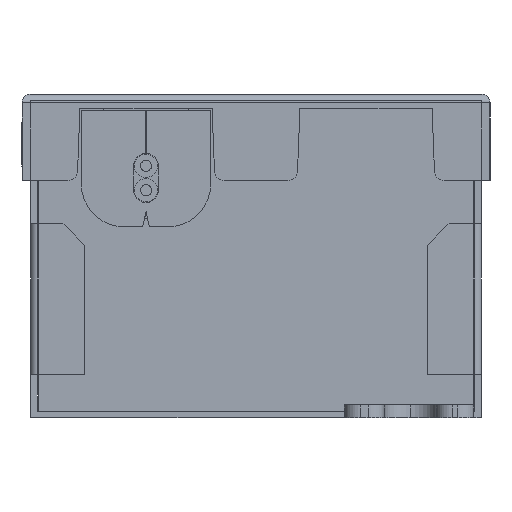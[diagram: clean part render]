
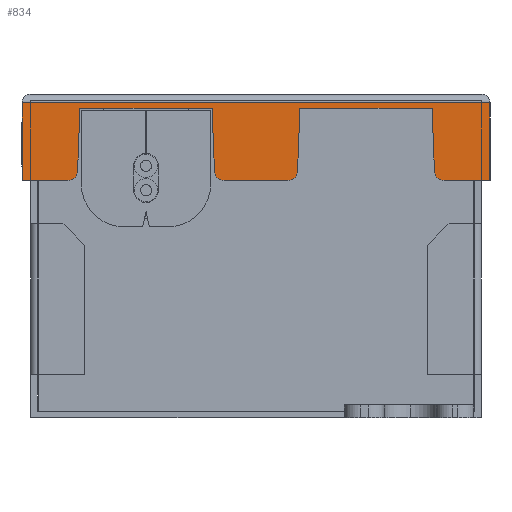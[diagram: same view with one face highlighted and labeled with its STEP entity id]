
A CAD part, left-side view. The second image highlights one B-rep face of the part: STEP entity #834.
In plain terms, the highlighted planar face has unit normal (-1, 0, 0).
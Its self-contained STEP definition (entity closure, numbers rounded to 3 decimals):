
#101 = CARTESIAN_POINT ( 'NONE',  ( -60., -0.7, 4.075 ) ) ;
#114 = CARTESIAN_POINT ( 'NONE',  ( -60., -7.4, -3.818 ) ) ;
#157 = EDGE_CURVE ( 'NONE', #3412, #4016, #7342, .T. ) ;
#196 = CIRCLE ( 'NONE', #2352, 0.9 ) ;
#300 = ORIENTED_EDGE ( 'NONE', *, *, #1863, .F. ) ;
#461 = VERTEX_POINT ( 'NONE', #9378 ) ;
#464 = CARTESIAN_POINT ( 'NONE',  ( -60., -6.535, -16.549 ) ) ;
#545 = VECTOR ( 'NONE', #1294, 1000. ) ;
#567 = ORIENTED_EDGE ( 'NONE', *, *, #8783, .T. ) ;
#635 = VECTOR ( 'NONE', #1257, 1000. ) ;
#834 = ADVANCED_FACE ( 'NONE', ( #3817 ), #3920, .F. ) ;
#877 = DIRECTION ( 'NONE',  ( 0., 0., 1. ) ) ;
#932 = VECTOR ( 'NONE', #6908, 1000. ) ;
#956 = DIRECTION ( 'NONE',  ( 1., 0., 0. ) ) ;
#1004 = VERTEX_POINT ( 'NONE', #3632 ) ;
#1125 = DIRECTION ( 'NONE',  ( 0., 0., -1. ) ) ;
#1166 = CARTESIAN_POINT ( 'NONE',  ( -60., -0.2, 21.7 ) ) ;
#1257 = DIRECTION ( 'NONE',  ( 0., 0., -1. ) ) ;
#1294 = DIRECTION ( 'NONE',  ( 0., -0.999, -0.038 ) ) ;
#1392 = ORIENTED_EDGE ( 'NONE', *, *, #5048, .F. ) ;
#1507 = CARTESIAN_POINT ( 'NONE',  ( -60., -6.535, 3.851 ) ) ;
#1512 = EDGE_CURVE ( 'NONE', #2907, #3495, #4361, .T. ) ;
#1603 = LINE ( 'NONE', #101, #3428 ) ;
#1765 = DIRECTION ( 'NONE',  ( -1., 0., 0. ) ) ;
#1774 = CARTESIAN_POINT ( 'NONE',  ( -60., 0.6, -21.7 ) ) ;
#1796 = DIRECTION ( 'NONE',  ( 0., 0., -1. ) ) ;
#1863 = EDGE_CURVE ( 'NONE', #7162, #7226, #8904, .T. ) ;
#2007 = VERTEX_POINT ( 'NONE', #5866 ) ;
#2078 = CARTESIAN_POINT ( 'NONE',  ( -60., -6.535, 16.549 ) ) ;
#2079 = ORIENTED_EDGE ( 'NONE', *, *, #1512, .T. ) ;
#2246 = EDGE_CURVE ( 'NONE', #3471, #1004, #3308, .T. ) ;
#2352 = AXIS2_PLACEMENT_3D ( 'NONE', #4796, #4430, #5200 ) ;
#2649 = VECTOR ( 'NONE', #8013, 1000. ) ;
#2791 = LINE ( 'NONE', #5430, #3254 ) ;
#2815 = ORIENTED_EDGE ( 'NONE', *, *, #5248, .T. ) ;
#2838 = CIRCLE ( 'NONE', #4275, 0.9 ) ;
#2895 = EDGE_CURVE ( 'NONE', #3471, #4016, #7746, .T. ) ;
#2907 = VERTEX_POINT ( 'NONE', #7684 ) ;
#2979 = DIRECTION ( 'NONE',  ( 0., 0., 1. ) ) ;
#3053 = VERTEX_POINT ( 'NONE', #7230 ) ;
#3055 = CARTESIAN_POINT ( 'NONE',  ( -60., -7.4, 21.7 ) ) ;
#3254 = VECTOR ( 'NONE', #9091, 1000. ) ;
#3258 = EDGE_CURVE ( 'NONE', #8758, #2007, #5020, .T. ) ;
#3267 = CARTESIAN_POINT ( 'NONE',  ( -60., 0.6, 21.7 ) ) ;
#3308 = LINE ( 'NONE', #3862, #3744 ) ;
#3317 = CARTESIAN_POINT ( 'NONE',  ( -60., -0.7, 4.075 ) ) ;
#3385 = ORIENTED_EDGE ( 'NONE', *, *, #5155, .T. ) ;
#3412 = VERTEX_POINT ( 'NONE', #6831 ) ;
#3428 = VECTOR ( 'NONE', #7350, 1000. ) ;
#3471 = VERTEX_POINT ( 'NONE', #1166 ) ;
#3495 = VERTEX_POINT ( 'NONE', #464 ) ;
#3550 = ORIENTED_EDGE ( 'NONE', *, *, #9108, .T. ) ;
#3565 = VERTEX_POINT ( 'NONE', #3317 ) ;
#3602 = VECTOR ( 'NONE', #2979, 1000. ) ;
#3632 = CARTESIAN_POINT ( 'NONE',  ( -60., -0.2, -21.7 ) ) ;
#3744 = VECTOR ( 'NONE', #6064, 1000. ) ;
#3809 = CARTESIAN_POINT ( 'NONE',  ( -60., -7.4, 16.582 ) ) ;
#3817 = FACE_OUTER_BOUND ( 'NONE', #8986, .T. ) ;
#3862 = CARTESIAN_POINT ( 'NONE',  ( -60., -0.2, -21.7 ) ) ;
#3877 = CARTESIAN_POINT ( 'NONE',  ( -60., -7.4, -21.7 ) ) ;
#3920 = PLANE ( 'NONE',  #4046 ) ;
#3966 = LINE ( 'NONE', #3877, #4186 ) ;
#4016 = VERTEX_POINT ( 'NONE', #3055 ) ;
#4046 = AXIS2_PLACEMENT_3D ( 'NONE', #1774, #956, #6091 ) ;
#4090 = ORIENTED_EDGE ( 'NONE', *, *, #157, .T. ) ;
#4186 = VECTOR ( 'NONE', #877, 1000. ) ;
#4275 = AXIS2_PLACEMENT_3D ( 'NONE', #8309, #8241, #1796 ) ;
#4361 = CIRCLE ( 'NONE', #9102, 0.9 ) ;
#4430 = DIRECTION ( 'NONE',  ( -1., 0., 0. ) ) ;
#4535 = LINE ( 'NONE', #9330, #545 ) ;
#4556 = CIRCLE ( 'NONE', #8400, 0.9 ) ;
#4581 = CARTESIAN_POINT ( 'NONE',  ( -60., -0.7, -4.075 ) ) ;
#4588 = ORIENTED_EDGE ( 'NONE', *, *, #6248, .T. ) ;
#4654 = LINE ( 'NONE', #114, #7144 ) ;
#4741 = EDGE_CURVE ( 'NONE', #7226, #3495, #4535, .T. ) ;
#4796 = CARTESIAN_POINT ( 'NONE',  ( -60., -6.5, 17.448 ) ) ;
#4991 = CARTESIAN_POINT ( 'NONE',  ( -60., 0.6, -21.7 ) ) ;
#5006 = CARTESIAN_POINT ( 'NONE',  ( -60., -0.7, -4.075 ) ) ;
#5020 = LINE ( 'NONE', #3809, #2649 ) ;
#5048 = EDGE_CURVE ( 'NONE', #9093, #7162, #4654, .T. ) ;
#5155 = EDGE_CURVE ( 'NONE', #461, #7834, #2838, .T. ) ;
#5200 = DIRECTION ( 'NONE',  ( 0., 0., -1. ) ) ;
#5248 = EDGE_CURVE ( 'NONE', #8758, #3412, #196, .T. ) ;
#5327 = DIRECTION ( 'NONE',  ( 0., 0.999, -0.038 ) ) ;
#5430 = CARTESIAN_POINT ( 'NONE',  ( -60., -7.4, -21.7 ) ) ;
#5516 = VERTEX_POINT ( 'NONE', #6859 ) ;
#5533 = CARTESIAN_POINT ( 'NONE',  ( -60., -6.5, -2.952 ) ) ;
#5585 = ORIENTED_EDGE ( 'NONE', *, *, #2246, .T. ) ;
#5804 = CARTESIAN_POINT ( 'NONE',  ( -60., -7.4, -21.7 ) ) ;
#5866 = CARTESIAN_POINT ( 'NONE',  ( -60., -0.7, 16.325 ) ) ;
#6064 = DIRECTION ( 'NONE',  ( 0., 0., -1. ) ) ;
#6068 = ORIENTED_EDGE ( 'NONE', *, *, #8059, .T. ) ;
#6091 = DIRECTION ( 'NONE',  ( 0., 0., -1. ) ) ;
#6154 = VECTOR ( 'NONE', #7893, 1000. ) ;
#6169 = DIRECTION ( 'NONE',  ( 0., 0., -1. ) ) ;
#6248 = EDGE_CURVE ( 'NONE', #5516, #461, #2791, .T. ) ;
#6831 = CARTESIAN_POINT ( 'NONE',  ( -60., -7.4, 17.448 ) ) ;
#6858 = DIRECTION ( 'NONE',  ( -1., 0., 0. ) ) ;
#6859 = CARTESIAN_POINT ( 'NONE',  ( -60., -7.4, -2.952 ) ) ;
#6908 = DIRECTION ( 'NONE',  ( 0., -1., 0. ) ) ;
#7144 = VECTOR ( 'NONE', #5327, 1000. ) ;
#7162 = VERTEX_POINT ( 'NONE', #4581 ) ;
#7226 = VERTEX_POINT ( 'NONE', #8281 ) ;
#7230 = CARTESIAN_POINT ( 'NONE',  ( -60., -7.4, -21.7 ) ) ;
#7236 = ORIENTED_EDGE ( 'NONE', *, *, #7754, .F. ) ;
#7342 = LINE ( 'NONE', #5804, #3602 ) ;
#7350 = DIRECTION ( 'NONE',  ( 0., -0.999, -0.038 ) ) ;
#7464 = CARTESIAN_POINT ( 'NONE',  ( -60., -6.535, -3.851 ) ) ;
#7684 = CARTESIAN_POINT ( 'NONE',  ( -60., -7.4, -17.448 ) ) ;
#7732 = DIRECTION ( 'NONE',  ( 0., 0., -1. ) ) ;
#7746 = LINE ( 'NONE', #3267, #932 ) ;
#7754 = EDGE_CURVE ( 'NONE', #3565, #7834, #1603, .T. ) ;
#7834 = VERTEX_POINT ( 'NONE', #1507 ) ;
#7887 = ORIENTED_EDGE ( 'NONE', *, *, #4741, .F. ) ;
#7893 = DIRECTION ( 'NONE',  ( 0., -1., 0. ) ) ;
#7914 = LINE ( 'NONE', #9205, #635 ) ;
#8013 = DIRECTION ( 'NONE',  ( 0., 0.999, -0.038 ) ) ;
#8059 = EDGE_CURVE ( 'NONE', #9093, #5516, #4556, .T. ) ;
#8211 = VECTOR ( 'NONE', #7732, 1000. ) ;
#8225 = ORIENTED_EDGE ( 'NONE', *, *, #3258, .F. ) ;
#8241 = DIRECTION ( 'NONE',  ( -1., 0., 0. ) ) ;
#8281 = CARTESIAN_POINT ( 'NONE',  ( -60., -0.7, -16.325 ) ) ;
#8309 = CARTESIAN_POINT ( 'NONE',  ( -60., -6.5, 2.952 ) ) ;
#8400 = AXIS2_PLACEMENT_3D ( 'NONE', #5533, #6858, #1125 ) ;
#8500 = LINE ( 'NONE', #4991, #6154 ) ;
#8720 = CARTESIAN_POINT ( 'NONE',  ( -60., -6.5, -17.448 ) ) ;
#8758 = VERTEX_POINT ( 'NONE', #2078 ) ;
#8783 = EDGE_CURVE ( 'NONE', #1004, #3053, #8500, .T. ) ;
#8904 = LINE ( 'NONE', #5006, #8211 ) ;
#8951 = ORIENTED_EDGE ( 'NONE', *, *, #2895, .F. ) ;
#8986 = EDGE_LOOP ( 'NONE', ( #8951, #5585, #567, #3550, #2079, #7887, #300, #1392, #6068, #4588, #3385, #7236, #9404, #8225, #2815, #4090 ) ) ;
#9091 = DIRECTION ( 'NONE',  ( 0., 0., 1. ) ) ;
#9093 = VERTEX_POINT ( 'NONE', #7464 ) ;
#9102 = AXIS2_PLACEMENT_3D ( 'NONE', #8720, #1765, #6169 ) ;
#9108 = EDGE_CURVE ( 'NONE', #3053, #2907, #3966, .T. ) ;
#9205 = CARTESIAN_POINT ( 'NONE',  ( -60., -0.7, 16.325 ) ) ;
#9303 = EDGE_CURVE ( 'NONE', #2007, #3565, #7914, .T. ) ;
#9330 = CARTESIAN_POINT ( 'NONE',  ( -60., -0.7, -16.325 ) ) ;
#9378 = CARTESIAN_POINT ( 'NONE',  ( -60., -7.4, 2.952 ) ) ;
#9404 = ORIENTED_EDGE ( 'NONE', *, *, #9303, .F. ) ;
